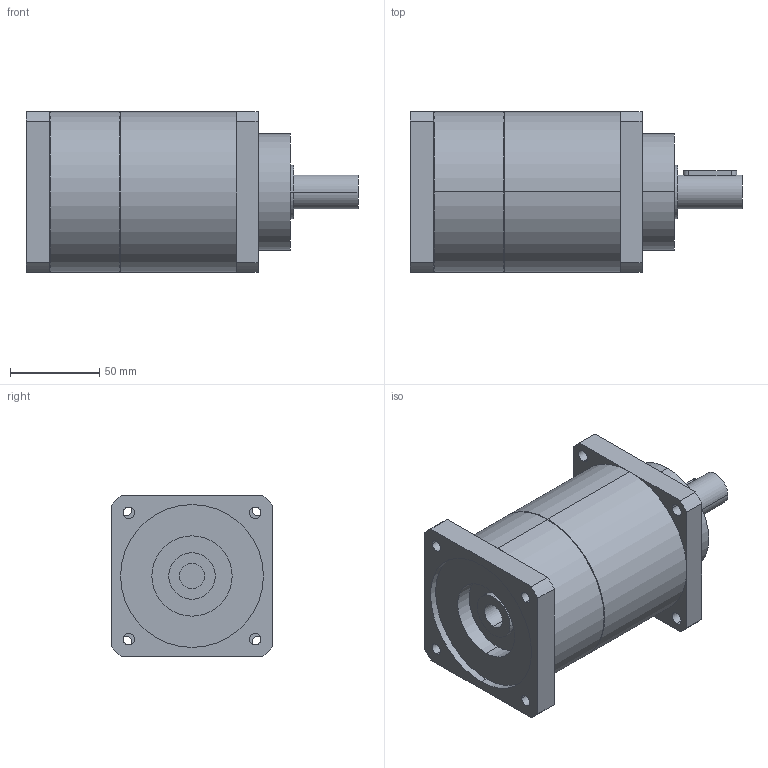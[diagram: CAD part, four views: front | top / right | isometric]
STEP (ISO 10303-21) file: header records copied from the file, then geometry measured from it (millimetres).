
FILE_DESCRIPTION(('CoCreate Modeling STEP Export'),'2;1');
FILE_NAME('GPT90_ig-9-12-16-20-25-28-35-40-50-70-100_19_B5T_14_P06.stp','2015-02-04T11:29:10',(''),(''),'CoCreate Modeling STEP processor for AP214 (Solid Model)','CoCreate Modeling 16.00C 25-Feb-2009 (C) Parametric Technology GmbH','');
FILE_SCHEMA(('AUTOMOTIVE_DESIGN { 1 0 10303 214 1 1 1 1 }'));
Length unit declared in the file: millimetre
Products named in the file (2): GPT90_ig-9-12-16-20-25-28-35-40-50-70-100_19_B5T_14_P06
Assembly tree (1 placements, depth 2):
  GPT90_ig-9-12-16-20-25-28-35-40-50-70-100_19_B5T_14_P06
    GPT90_ig-9-12-16-20-25-28-35-40-50-70-100_19_B5T_14_P06
Bounding box: 186 x 90 x 90 mm (x, y, z)
Volume: 898625.1 mm3; surface area: 70346.3 mm2
Topology: 1 solids, 1 shells, 77 faces, 206 edges, 141 vertices
Faces by surface type: cylinder 46, plane 27, cone 4
Entity records: 2596 total; most frequent: CARTESIAN_POINT 742, ORIENTED_EDGE 412, DIRECTION 324, EDGE_CURVE 206, VERTEX_POINT 141, AXIS2_PLACEMENT_3D 120, EDGE_LOOP 103, VECTOR 84
